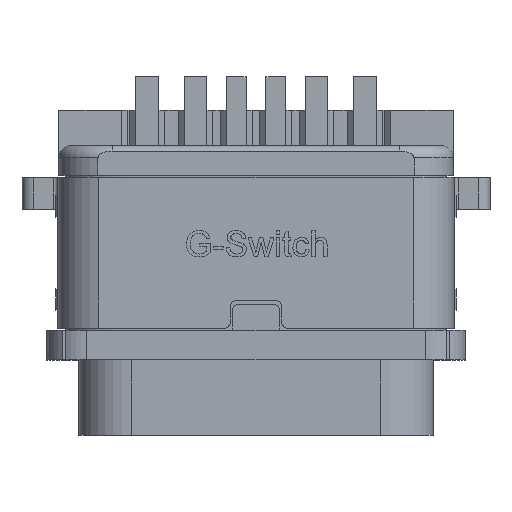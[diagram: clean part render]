
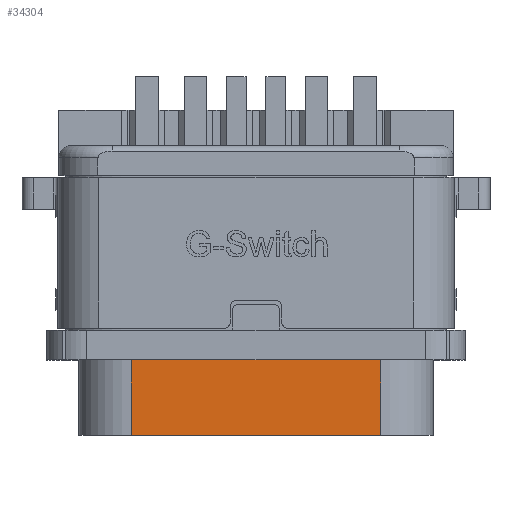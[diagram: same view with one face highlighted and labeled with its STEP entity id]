
A CAD part, top view. The second image highlights one B-rep face of the part: STEP entity #34304.
In plain terms, the highlighted planar face has unit normal (0, 0, 1).
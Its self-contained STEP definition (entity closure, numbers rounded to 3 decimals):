
#1057 = EDGE_CURVE ( 'NONE', #10459, #23160, #21559, .T. ) ;
#3465 = ORIENTED_EDGE ( 'NONE', *, *, #26763, .T. ) ;
#3781 = CARTESIAN_POINT ( 'NONE',  ( 76.86, -41.5, 0.3 ) ) ;
#5314 = LINE ( 'NONE', #30359, #8787 ) ;
#7237 = EDGE_CURVE ( 'NONE', #10459, #30694, #5314, .T. ) ;
#7992 = VECTOR ( 'NONE', #21737, 1000. ) ;
#8306 = PLANE ( 'NONE',  #22968 ) ;
#8599 = DIRECTION ( 'NONE',  ( 0., 1., 0. ) ) ;
#8787 = VECTOR ( 'NONE', #8599, 1000. ) ;
#10151 = ORIENTED_EDGE ( 'NONE', *, *, #7237, .F. ) ;
#10459 = VERTEX_POINT ( 'NONE', #35074 ) ;
#11020 = DIRECTION ( 'NONE',  ( 1., 0., 0. ) ) ;
#12554 = ORIENTED_EDGE ( 'NONE', *, *, #28553, .T. ) ;
#12992 = CARTESIAN_POINT ( 'NONE',  ( 80., -41.5, 0.3 ) ) ;
#13347 = LINE ( 'NONE', #12992, #25244 ) ;
#14508 = CARTESIAN_POINT ( 'NONE',  ( 83.14, -37., 0.3 ) ) ;
#16098 = DIRECTION ( 'NONE',  ( 0., 0., 1. ) ) ;
#16795 = CARTESIAN_POINT ( 'NONE',  ( 83.14, -43.4, 0.3 ) ) ;
#19968 = ORIENTED_EDGE ( 'NONE', *, *, #1057, .T. ) ;
#21559 = LINE ( 'NONE', #35004, #7992 ) ;
#21737 = DIRECTION ( 'NONE',  ( 1., 0., 0. ) ) ;
#22305 = LINE ( 'NONE', #14508, #34379 ) ;
#22488 = DIRECTION ( 'NONE',  ( 0., 1., 0. ) ) ;
#22968 = AXIS2_PLACEMENT_3D ( 'NONE', #29710, #16098, #11020 ) ;
#23160 = VERTEX_POINT ( 'NONE', #16795 ) ;
#24063 = DIRECTION ( 'NONE',  ( -1., 0., 0. ) ) ;
#24445 = FACE_OUTER_BOUND ( 'NONE', #27058, .T. ) ;
#25244 = VECTOR ( 'NONE', #24063, 1000. ) ;
#26763 = EDGE_CURVE ( 'NONE', #29400, #30694, #13347, .T. ) ;
#27058 = EDGE_LOOP ( 'NONE', ( #3465, #10151, #19968, #12554 ) ) ;
#28553 = EDGE_CURVE ( 'NONE', #23160, #29400, #22305, .T. ) ;
#29400 = VERTEX_POINT ( 'NONE', #33894 ) ;
#29710 = CARTESIAN_POINT ( 'NONE',  ( 80.3, -40.5, 0.3 ) ) ;
#30359 = CARTESIAN_POINT ( 'NONE',  ( 76.86, -37., 0.3 ) ) ;
#30694 = VERTEX_POINT ( 'NONE', #3781 ) ;
#33894 = CARTESIAN_POINT ( 'NONE',  ( 83.14, -41.5, 0.3 ) ) ;
#34304 = ADVANCED_FACE ( 'NONE', ( #24445 ), #8306, .T. ) ;
#34379 = VECTOR ( 'NONE', #22488, 1000. ) ;
#35004 = CARTESIAN_POINT ( 'NONE',  ( 76.86, -43.4, 0.3 ) ) ;
#35074 = CARTESIAN_POINT ( 'NONE',  ( 76.86, -43.4, 0.3 ) ) ;
